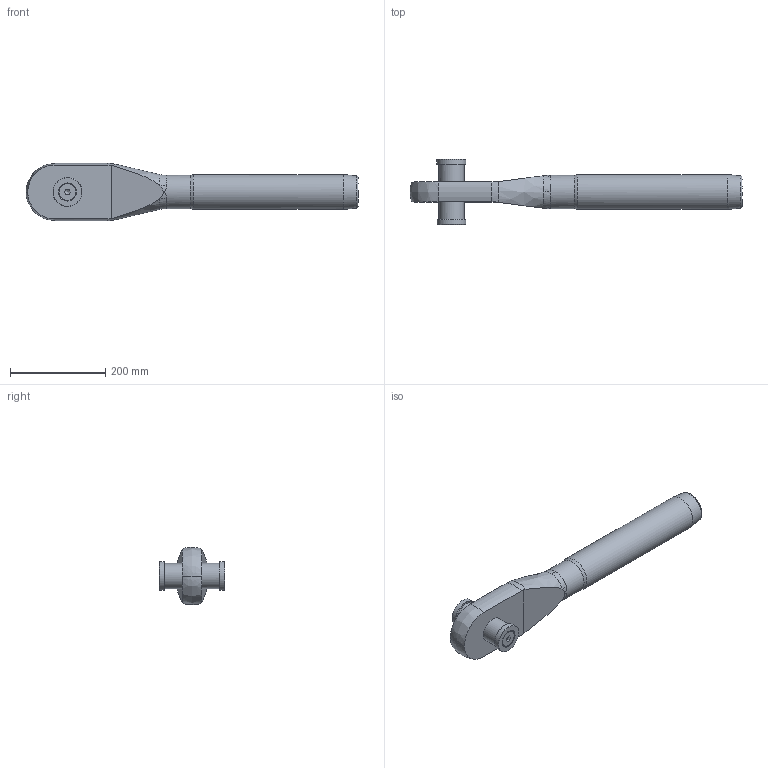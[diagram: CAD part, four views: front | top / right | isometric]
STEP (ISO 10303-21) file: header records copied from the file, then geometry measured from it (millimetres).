
FILE_DESCRIPTION(/* description */ (''),/* implementation_level */ '2;1');
FILE_NAME(/* name */ 'MCC 38_1,4418',/* time_stamp */ '2023-05-23T15:40:40+02:00',/* author */ (''),/* organization */ (''),/* preprocessor_version */ 'ST-DEVELOPER v16.5',/* originating_system */ 'Rhino 7.22',/* authorisation */ '');
FILE_SCHEMA (('CONFIG_CONTROL_DESIGN'));
Length unit declared in the file: millimetre
Products named in the file (1): Document
Bounding box: 698.5 x 137.73 x 120.99 mm (x, y, z)
Volume: 3274770.1 mm3; surface area: 235934.5 mm2
Topology: 6 solids, 6 shells, 74 faces, 202 edges, 134 vertices
Faces by surface type: bspline 31, plane 27, cylinder 16
Full cylindrical faces by diameter (mm): 17.294 x2, 20 x2, 21 x2, 35.4 x2, 53 x1, 54 x1, 61 x2, 70 x1, 73.5 x1
Entity records: 3241 total; most frequent: CARTESIAN_POINT 1990, ORIENTED_EDGE 384, EDGE_CURVE 192, VERTEX_POINT 134, EDGE_LOOP 84, ADVANCED_FACE 74, FACE_OUTER_BOUND 74, B_SPLINE_CURVE_WITH_KNOTS 64
